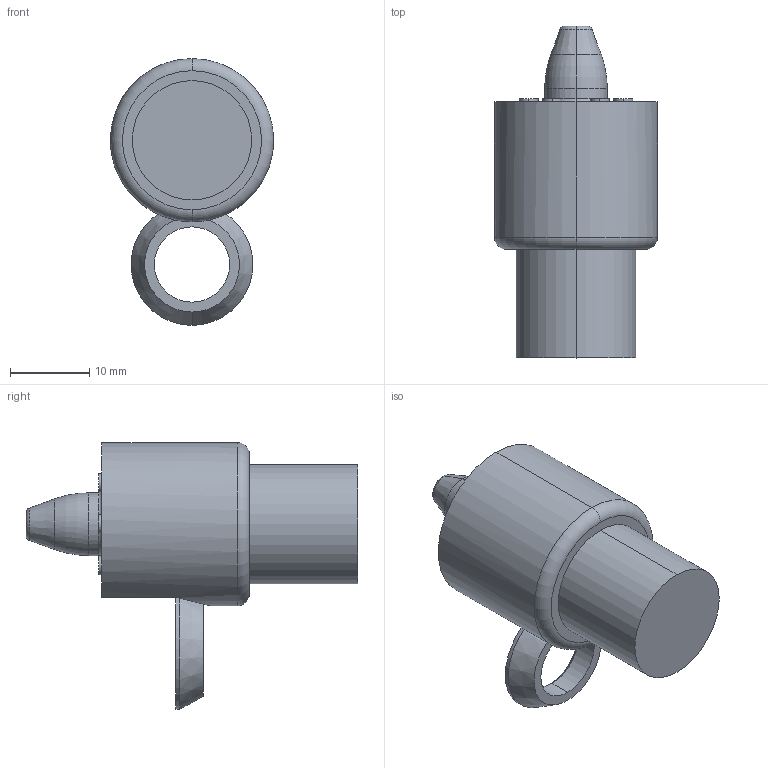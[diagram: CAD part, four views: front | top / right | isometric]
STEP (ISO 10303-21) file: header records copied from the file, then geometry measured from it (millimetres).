
FILE_DESCRIPTION (( 'STEP AP214' ), '1' );
FILE_NAME ('PA-.3125-.050-P-F1.stp', '2020-05-01T17:42:18', ( '' ), ( '' ), 'SwSTEP 2.0', 'SolidWorks 2017', '' );
FILE_SCHEMA (( 'AUTOMOTIVE_DESIGN' ));
Length unit declared in the file: inch
Products named in the file (1): PA-.3125-.050-P-F1
Bounding box: 20.64 x 41.97 x 33.74 mm (x, y, z)
Volume: 9133.7 mm3; surface area: 3076.6 mm2
Topology: 2 solids, 2 shells, 52 faces, 105 edges, 65 vertices
Faces by surface type: cylinder 23, plane 12, torus 9, cone 8
Entity records: 1460 total; most frequent: DIRECTION 277, CARTESIAN_POINT 257, ORIENTED_EDGE 210, AXIS2_PLACEMENT_3D 123, EDGE_CURVE 105, CIRCLE 70, VERTEX_POINT 65, EDGE_LOOP 62
